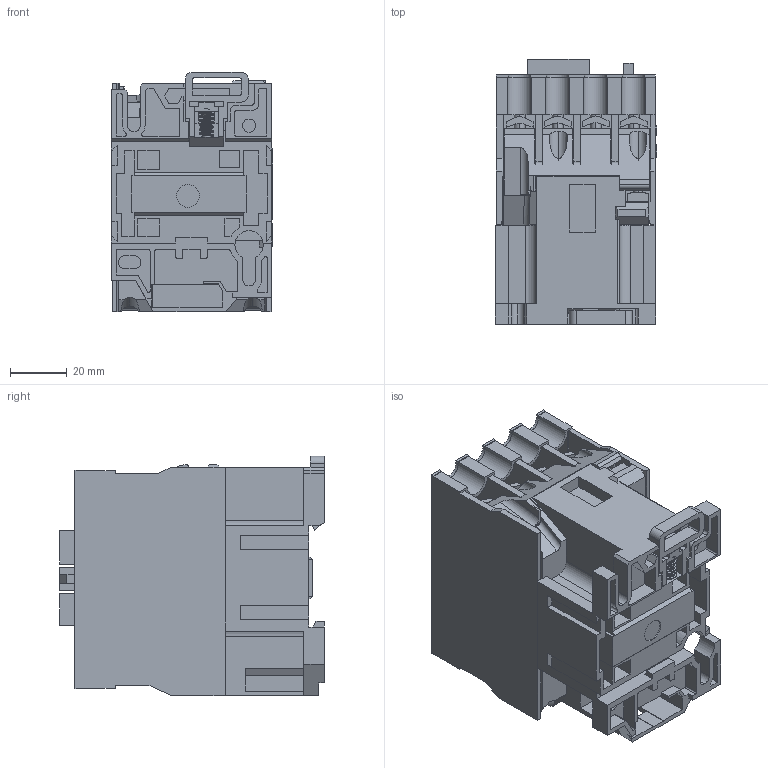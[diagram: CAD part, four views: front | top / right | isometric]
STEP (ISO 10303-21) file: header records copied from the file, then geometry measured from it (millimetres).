
FILE_DESCRIPTION (( 'STEP AP214' ), '1' );
FILE_NAME ('Ñ ìàðêèðîâêîé 2100 ÄÌ.STEP', '2014-04-02T05:41:03', ( 'admin' ), ( '' ), 'SwSTEP 2.0', 'SolidWorks 2007', '' );
FILE_SCHEMA (( 'AUTOMOTIVE_DESIGN' ));
Length unit declared in the file: millimetre
Products named in the file (11): Ìàðêèðîâêà_Ïî óìîë÷àíèþ_Ïî óìîë÷àíèþ; Êîðïóñ_Ïî óìîë÷àíèþ_Ïî óìîë÷àíèþ; Çàùåëêà_Ïî óìîë÷àíèþ_Ïî óìîë÷àíèþ; âèíò Ì3_JIS B 1111 Binding head screw M3 x 10 --10N_Ïî óìîë÷àíèþ; ïðóæèíà_Ïî óìîë÷àíèþ_Ïî óìîë÷àíèþ; Øàéáà_Ïî óìîë÷àíèþ_Ïî óìîë÷àíèþ; øàéáà3_Ïî óìîë÷àíèþ_Ïî óìîë÷àíèþ; Ïàíåëü2_Ïî óìîë÷àíèþ_Ïî óìîë÷àíèþ; vintm4_Ïî óìîë÷àíèþ; Ñ ìàðêèðîâêîé 2100 ÄÌ; Ïàíåëü 1_Ïî óìîë÷àíèþ_Ïî óìîë÷àíèþ
Assembly tree (30 placements, depth 2):
  Ñ ìàðêèðîâêîé 2100 ÄÌ
    vintm4_Ïî óìîë÷àíèþ  x8
    Øàéáà_Ïî óìîë÷àíèþ_Ïî óìîë÷àíèþ  x8
    øàéáà3_Ïî óìîë÷àíèþ_Ïî óìîë÷àíèþ  x3
    Çàùåëêà_Ïî óìîë÷àíèþ_Ïî óìîë÷àíèþ
    âèíò Ì3_JIS B 1111 Binding head screw M3 x 10 --10N_Ïî óìîë÷àíèþ  x5
    Ïàíåëü2_Ïî óìîë÷àíèþ_Ïî óìîë÷àíèþ
    ïðóæèíà_Ïî óìîë÷àíèþ_Ïî óìîë÷àíèþ
    Ïàíåëü 1_Ïî óìîë÷àíèþ_Ïî óìîë÷àíèþ
    Ìàðêèðîâêà_Ïî óìîë÷àíèþ_Ïî óìîë÷àíèþ
    Êîðïóñ_Ïî óìîë÷àíèþ_Ïî óìîë÷àíèþ
Bounding box: 56.75 x 93.4 x 84.42 mm (x, y, z)
Volume: 274837.1 mm3; surface area: 79021.5 mm2
Topology: 42 solids, 42 shells, 1508 faces, 4093 edges, 2664 vertices
Faces by surface type: plane 1040, cylinder 237, bspline 191, cone 40
Entity records: 43459 total; most frequent: CARTESIAN_POINT 15763, ORIENTED_EDGE 6086, DIRECTION 4894, EDGE_CURVE 3043, VECTOR 2380, LINE 2380, VERTEX_POINT 2004, AXIS2_PLACEMENT_3D 1257
